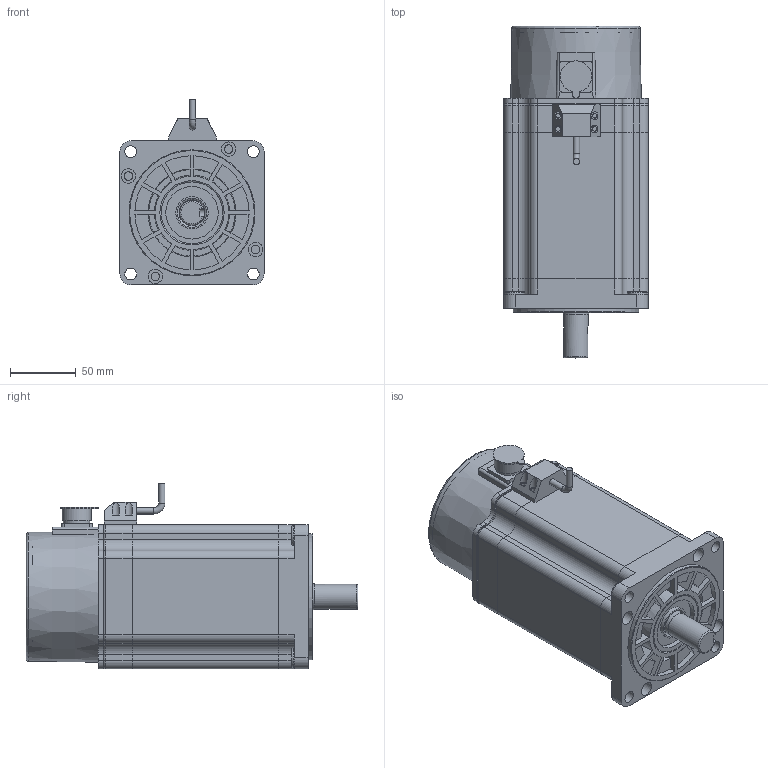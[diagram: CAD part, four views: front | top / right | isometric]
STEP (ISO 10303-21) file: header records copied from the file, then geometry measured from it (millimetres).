
FILE_DESCRIPTION(/* description */ (''),/* implementation_level */ '2;1');
FILE_NAME(/* name */ '110BYG350C(止口φ95).stp',/* time_stamp */ '2024-08-16T09:53:42+08:00',/* author */ (''),/* organization */ (''),/* preprocessor_version */ 'ST-DEVELOPER v18.1',/* originating_system */ 'SIEMENS PLM Software NX 2000',/* authorisation */ '');
FILE_SCHEMA (('AUTOMOTIVE_DESIGN { 1 0 10303 214 3 1 1 1 }'));
Length unit declared in the file: millimetre
Products named in the file (1): 925032A4A3696tlb
Bounding box: 110 x 253 x 141.72 mm (x, y, z)
Volume: 1612757.6 mm3; surface area: 239545.6 mm2
Topology: 10 solids, 10 shells, 669 faces, 1833 edges, 1216 vertices
Faces by surface type: plane 425, cylinder 178, cone 33, torus 33
Full cylindrical faces by diameter (mm): 3 x4, 3.5 x4, 4.8 x2, 6 x4, 6.5 x12, 7 x1, 9 x4, 11 x4, 15 x4, 16.5 x1, 19 x1, 19.7 x1, 20 x1, 20.196 x2, 22.032 x1, 22.288 x1, 24.616 x1, 40 x1, 47 x3, 50 x1, 56 x1, 69 x1, 70 x1, 96 x1
Entity records: 21488 total; most frequent: CARTESIAN_POINT 4448, DIRECTION 3432, ORIENTED_EDGE 3420, EDGE_CURVE 1710, VERTEX_POINT 1172, AXIS2_PLACEMENT_3D 1158, LINE 1116, VECTOR 1116
